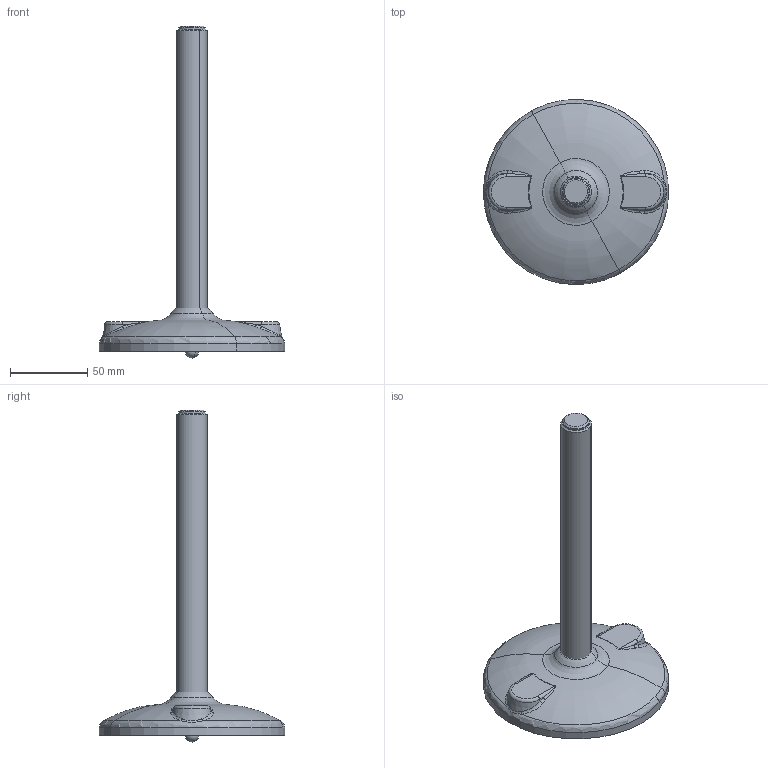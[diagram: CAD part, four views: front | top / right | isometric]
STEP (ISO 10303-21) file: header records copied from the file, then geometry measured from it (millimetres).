
FILE_DESCRIPTION(('CATIA V5 STEP Exchange'),'2;1');
FILE_NAME('C:\Users\dentellad\Desktop\P91703Z_02.stp','2017-02-24T17:20:51+00:00',('none'),('none'),'Version 5-6 Release 2012','CATIA V5 STEP AP203','none');
FILE_SCHEMA(('CONFIG_CONTROL_DESIGN'));
Length unit declared in the file: millimetre
Products named in the file (1): P91703Z_02
Assembly tree (3 placements, depth 2):
  P91703Z_02
    #58
    #36598
    #37413
Bounding box: 119.97 x 119.97 x 214.95 mm (x, y, z)
Volume: 137749.7 mm3; surface area: 56970.3 mm2
Topology: 3 solids, 3 shells, 887 faces, 2355 edges, 1475 vertices
Faces by surface type: plane 491, bspline 166, cylinder 72, torus 68, cone 41, sphere 28, revolution 21
Entity records: 37737 total; most frequent: CARTESIAN_POINT 19917, ORIENTED_EDGE 4682, EDGE_CURVE 2341, DIRECTION 2007, B_SPLINE_CURVE_WITH_KNOTS 1508, VERTEX_POINT 1475, EDGE_LOOP 904, ADVANCED_FACE 887
